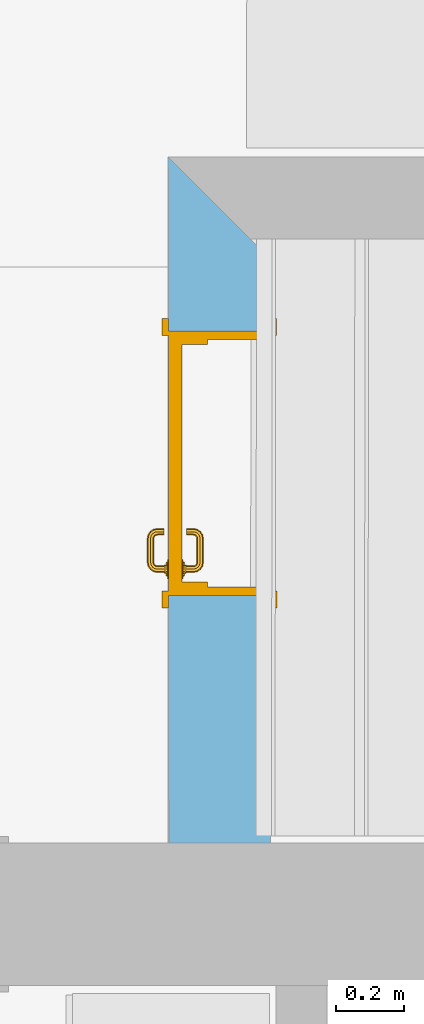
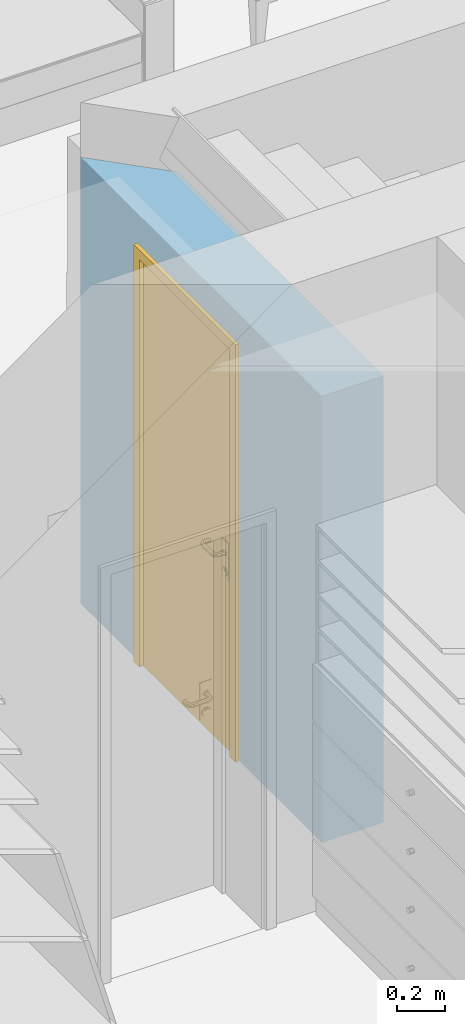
# One storey, part 65 of 194: 1 door, 1 opening, plus 1 element that does not belong to this part.
"""IFC2X3 building model written with IfcOpenShell, lengths in millimetres."""

from ifc_helpers import new_model, entity, si_unit, converted_unit, derived_unit, money_unit, direction, frame, origin_with_axes, origin_2d_with_axis, place, context, subcontext, project, spatial, polyline, rectangle, outline, extrude, open_shell, faceted_brep, surface_model, material, layer, layer_set, layer_usage, type_object, element, fill, save


model = new_model("IFC2X3")

# Units and contexts
model_context = context("Model", 3, precision=1e-05, world=origin_with_axes(), true_north=direction((0.0, 1.0)))
body_context = subcontext(model_context, "Body", "Model", "MODEL_VIEW")
ifc_project = project(units=[si_unit("LENGTHUNIT", "METRE", prefix="MILLI"), si_unit("AREAUNIT", "SQUARE_METRE"), si_unit("VOLUMEUNIT", "CUBIC_METRE"), converted_unit("PLANEANGLEUNIT", "DEGREE", entity("IfcPlaneAngleMeasure", 0.0174532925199), si_unit("PLANEANGLEUNIT", "RADIAN"), dimensions=[0, 0, 0, 0, 0, 0, 0]), si_unit("SOLIDANGLEUNIT", "STERADIAN"), money_unit("EUR"), converted_unit("TIMEUNIT", "Year", entity("IfcTimeMeasure", 31556926.0), si_unit("TIMEUNIT", "SECOND"), dimensions=[0, 0, 1, 0, 0, 0, 0]), si_unit("MASSUNIT", "GRAM", prefix="KILO"), si_unit("THERMODYNAMICTEMPERATUREUNIT", "DEGREE_CELSIUS"), si_unit("LUMINOUSINTENSITYUNIT", "LUMEN"), si_unit("ENERGYUNIT", "JOULE", prefix="MEGA"), derived_unit("THERMALCONDUCTANCEUNIT", [(si_unit("POWERUNIT", "WATT"), 1), (si_unit("LENGTHUNIT", "METRE"), -1), (si_unit("THERMODYNAMICTEMPERATUREUNIT", "KELVIN"), -1)]), derived_unit("SPECIFICHEATCAPACITYUNIT", [(si_unit("ENERGYUNIT", "JOULE"), 1), (si_unit("MASSUNIT", "GRAM", prefix="KILO"), -1), (si_unit("THERMODYNAMICTEMPERATUREUNIT", "KELVIN"), -1)]), derived_unit("MASSDENSITYUNIT", [(si_unit("MASSUNIT", "GRAM", prefix="KILO"), 1), (si_unit("VOLUMEUNIT", "CUBIC_METRE"), -1)])], contexts=[model_context])

# Site, building, storey
site_placement = place(None, origin_with_axes())
site = spatial("IfcSite", under=ifc_project, at=site_placement, Name="Site", CompositionType="ELEMENT")
building_placement = place(site_placement, origin_with_axes())
building = spatial("IfcBuilding", under=site, at=building_placement, Name="Building", CompositionType="ELEMENT")
storey_placement = place(building_placement, frame((0.0, 0.0, 3000.0), z_axis=(0.0, 0.0, 1.0), x_axis=(1.0, 0.0, 0.0)))
storey = spatial("IfcBuildingStorey", under=building, at=storey_placement, Name="2 KORRUS", CompositionType="ELEMENT", Elevation=3000.0)

# Wall, opening, door
ifc_material = material(Name="Kivi -Ol.Olev Konstruktsioon")
ifc_layer = layer(ifc_material, 300.0, ventilated="UNKNOWN")
ifc_layer_set = layer_set([ifc_layer], Name="ol.olev ss 300")
ifc_layer_usage = layer_usage(ifc_layer_set, "AXIS2", "POSITIVE", 0.0)
wall_type = type_object("IfcWallType", Name="SW - 022", PredefinedType="NOTDEFINED")
wall_placement = place(storey_placement, frame((81689.8313676, 43024.0850644, 0.0), z_axis=(0.0, 0.0, 1.0), x_axis=(0.000789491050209, -0.999999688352, 0.0)))
wall = element("IfcWallStandardCase", 1, at=wall_placement, inside=storey, type_object=wall_type, material=ifc_layer_usage, Name="ol.olev ss 300", context=body_context, shape_type="SweptSolid", body=[
    extrude(outline(polyline([(0.0, 0.0), (2021.02076615, 0.0), (2021.25761354, 300.0), (300.236940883, 300.0), (0.0, 0.0)])), origin_with_axes(), (0.0, 0.0, 1.0), 2287.45029227),
])
opening_placement = place(wall_placement, frame((902.224238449, 0.0, 0.0), z_axis=(0.0, 0.0, 1.0), x_axis=(1.0, 0.0, 0.0)))
opening = element("IfcOpeningElement", 2, at=opening_placement, cuts=wall, Name="Siseuks * Door 22", context=body_context, shape_type="SweptSolid", body=[
    extrude(rectangle(XDim=780.000000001, YDim=2100.0, at=origin_2d_with_axis()), frame((9.09494701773e-10, 300.0, 1050.0), z_axis=(0.0, -1.0, 0.0), x_axis=(-1.0, 0.0, 0.0)), (0.0, 0.0, 1.0), 900.0),
    extrude(rectangle(XDim=853.999999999, YDim=2137.0, at=origin_2d_with_axis()), frame((0.0, 300.0, 1068.5), z_axis=(0.0, -1.0, 0.0), x_axis=(-1.0, 0.0, 0.0)), (0.0, 0.0, -1.0), 300.0),
    extrude(rectangle(XDim=854.0, YDim=2137.0, at=origin_2d_with_axis()), frame((0.0, 0.0, 1068.5), z_axis=(0.0, 1.0, 0.0), x_axis=(-1.0, 0.0, 0.0)), (0.0, 0.0, -1.0), 300.0),
])
door_style = type_object("IfcDoorStyle", Name="SU-B238   780×2\xa0100", ConstructionType="NOTDEFINED", OperationType="SINGLE_SWING_RIGHT", ParameterTakesPrecedence=False, Sizeable=False)
door_placement = place(opening_placement, frame((389.999999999, 0.0, 0.0), z_axis=(0.0, 0.0, 1.0), x_axis=(-1.0, 0.0, 0.0)))
door = element("IfcDoor", 3, at=door_placement, inside=storey, type_object=door_style, Name="Siseuks * Door 22", OverallHeight=2100.0, OverallWidth=780.0, context=body_context, shape_type="SurfaceModel", body=[
    faceted_brep([(0.0, -115.0, 0.0), (24.9999999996, -115.0, 0.0), (24.9999999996, -300.0, 0.0), (0.0, -300.0, 0.0), (0.0, -115.0, 2100.0), (24.9999999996, -115.0, 2075.0), (24.9999999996, -300.0, 2075.0), (0.0, -300.0, 2100.0)], [[[0, 1, 2, 3]], [[0, 4, 5, 1]], [[1, 5, 6, 2]], [[3, 2, 6, 7]], [[4, 0, 3, 7]], [[5, 4, 7, 6]]]),
    faceted_brep([(780.0, -115.0, 2100.0), (755.0, -115.0, 2075.0), (754.999999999, -300.0, 2075.0), (779.999999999, -300.0, 2100.0), (780.0, -115.0, 0.0), (755.0, -115.0, 0.0), (754.999999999, -300.0, 0.0), (779.999999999, -300.0, 0.0)], [[[0, 1, 2, 3]], [[0, 4, 5, 1]], [[1, 5, 6, 2]], [[3, 2, 6, 7]], [[4, 0, 3, 7]], [[5, 4, 7, 6]]]),
    faceted_brep([(24.9999999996, -115.0, 2075.0), (755.0, -115.0, 2075.0), (754.999999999, -300.0, 2075.0), (24.9999999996, -300.0, 2075.0), (0.0, -115.0, 2100.0), (780.0, -115.0, 2100.0), (779.999999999, -300.0, 2100.0), (0.0, -300.0, 2100.0)], [[[0, 1, 2, 3]], [[0, 4, 5, 1]], [[1, 5, 6, 2]], [[3, 2, 6, 7]], [[4, 0, 3, 7]], [[5, 4, 7, 6]]]),
    faceted_brep([(-37.0000000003, -319.0, 0.0), (-37.0000000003, -300.0, 0.0), (12.999999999, -300.0, 0.0), (12.9999999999, -319.0, 0.0), (-37.0000000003, -319.0, 2137.0), (-37.0000000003, -300.0, 2137.0), (12.999999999, -300.0, 2087.0), (12.9999999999, -319.0, 2087.0)], [[[0, 1, 2, 3]], [[4, 5, 1, 0]], [[1, 5, 6, 2]], [[3, 2, 6, 7]], [[0, 3, 7, 4]], [[7, 6, 5, 4]]]),
    faceted_brep([(816.999999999, -319.0, 2137.0), (816.999999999, -300.0, 2137.0), (766.999999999, -300.0, 2087.0), (767.0, -319.0, 2087.0), (816.999999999, -319.0, 0.0), (816.999999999, -300.0, 0.0), (766.999999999, -300.0, 0.0), (767.0, -319.0, 0.0)], [[[0, 1, 2, 3]], [[4, 5, 1, 0]], [[1, 5, 6, 2]], [[3, 2, 6, 7]], [[0, 3, 7, 4]], [[7, 6, 5, 4]]]),
    faceted_brep([(-37.0000000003, -319.0, 2137.0), (-37.0000000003, -300.0, 2137.0), (12.999999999, -300.0, 2087.0), (12.9999999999, -319.0, 2087.0), (816.999999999, -319.0, 2137.0), (816.999999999, -300.0, 2137.0), (766.999999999, -300.0, 2087.0), (767.0, -319.0, 2087.0)], [[[0, 1, 2, 3]], [[4, 5, 1, 0]], [[1, 5, 6, 2]], [[3, 2, 6, 7]], [[0, 3, 7, 4]], [[7, 6, 5, 4]]]),
    faceted_brep([(-37.0000000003, 19.0, 0.0), (12.999999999, 19.0, 0.0), (12.9999999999, 0.0, 0.0), (-37.0000000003, 0.0, 0.0), (-37.0000000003, 19.0, 2137.0), (12.999999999, 19.0, 2087.0), (12.9999999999, 0.0, 2087.0), (-37.0000000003, 0.0, 2137.0)], [[[0, 1, 2, 3]], [[0, 4, 5, 1]], [[1, 5, 6, 2]], [[3, 2, 6, 7]], [[4, 0, 3, 7]], [[5, 4, 7, 6]]]),
    faceted_brep([(816.999999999, 19.0, 2137.0), (766.999999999, 19.0, 2087.0), (766.999999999, 1.13686837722e-10, 2087.0), (816.999999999, 1.13686837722e-10, 2137.0), (816.999999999, 19.0, 0.0), (766.999999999, 19.0, 0.0), (766.999999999, 1.13686837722e-10, 0.0), (816.999999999, 1.13686837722e-10, 0.0)], [[[0, 1, 2, 3]], [[0, 4, 5, 1]], [[1, 5, 6, 2]], [[3, 2, 6, 7]], [[4, 0, 3, 7]], [[5, 4, 7, 6]]]),
    faceted_brep([(-37.0000000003, 19.0, 2137.0), (12.999999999, 19.0, 2087.0), (12.9999999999, 0.0, 2087.0), (-37.0000000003, 0.0, 2137.0), (816.999999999, 19.0, 2137.0), (766.999999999, 19.0, 2087.0), (766.999999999, 1.13686837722e-10, 2087.0), (816.999999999, 1.13686837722e-10, 2137.0)], [[[0, 1, 2, 3]], [[0, 4, 5, 1]], [[1, 5, 6, 2]], [[3, 2, 6, 7]], [[4, 0, 3, 7]], [[5, 4, 7, 6]]]),
    faceted_brep([(40.0, -40.0, 0.0), (40.0, -40.0, 2060.0), (39.9999999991, -115.0, 2060.0), (39.9999999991, -115.0, 0.0), (28.0000000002, -40.0, 2060.0), (28.0000000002, -40.0, 0.0), (27.9999999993, 0.0, 2060.0), (0.0, 0.0, 2060.0), (0.0, -115.0, 2060.0), (0.0, -115.0, 0.0), (0.0, 0.0, 0.0), (27.9999999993, 0.0, 0.0)], [[[0, 1, 2, 3]], [[4, 1, 0, 5]], [[4, 6, 7, 8, 2, 1]], [[3, 2, 8, 9]], [[5, 0, 3, 9, 10, 11]], [[6, 4, 5, 11]], [[6, 11, 10, 7]], [[10, 9, 8, 7]]]),
    faceted_brep([(751.999999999, -40.0, 2060.0), (740.0, -40.0, 2060.0), (740.0, -115.0, 2060.0), (780.0, -115.0, 2060.0), (780.0, 1.13686837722e-10, 2060.0), (751.999999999, 0.0, 2060.0), (751.999999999, -40.0, 0.0), (740.0, -40.0, 0.0), (740.0, -115.0, 0.0), (780.0, -115.0, 0.0), (780.0, 1.13686837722e-10, 0.0), (751.999999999, 0.0, 0.0)], [[[0, 1, 2, 3, 4, 5]], [[1, 0, 6, 7]], [[1, 7, 8, 2]], [[3, 2, 8, 9]], [[4, 3, 9, 10]], [[11, 5, 4, 10]], [[0, 5, 11, 6]], [[6, 11, 10, 9, 8, 7]]]),
    faceted_brep([(27.9999999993, 0.0, 2072.0), (27.9999999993, 0.0, 2060.0), (0.0, 0.0, 2060.0), (0.0, 0.0, 2100.0), (780.0, 1.13686837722e-10, 2100.0), (780.0, 1.13686837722e-10, 2060.0), (751.999999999, 0.0, 2060.0), (751.999999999, 0.0, 2072.0), (28.0000000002, -40.0, 2072.0), (28.0000000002, -40.0, 2060.0), (40.0, -40.0, 2060.0), (39.9999999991, -115.0, 2060.0), (0.0, -115.0, 2060.0), (0.0, -115.0, 2100.0), (780.0, -115.0, 2100.0), (780.0, -115.0, 2060.0), (751.999999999, -40.0, 2060.0), (740.0, -115.0, 2060.0), (740.0, -40.0, 2060.0), (751.999999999, -40.0, 2072.0)], [[[0, 1, 2, 3, 4, 5, 6, 7]], [[1, 0, 8, 9]], [[9, 10, 11, 12, 2, 1]], [[2, 12, 13, 3]], [[3, 13, 14, 4]], [[4, 14, 15, 5]], [[16, 6, 5, 15, 17, 18]], [[7, 6, 16, 19]], [[0, 7, 19, 8]], [[16, 18, 10, 9, 8, 19]], [[10, 18, 17, 11]], [[17, 15, 14, 13, 12, 11]]]),
    faceted_brep([(49.4999999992, -40.0, 1060.0), (49.5000000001, -43.0, 1060.0), (106.5, -42.9999999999, 1060.0), (106.5, -39.9999999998, 1060.0), (49.4999999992, -40.0, 870.0), (49.5000000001, -43.0, 870.0), (106.5, -42.9999999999, 870.0), (106.5, -39.9999999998, 870.0)], [[[0, 1, 2, 3]], [[4, 5, 1, 0]], [[1, 5, 6, 2]], [[3, 2, 6, 7]], [[0, 3, 7, 4]], [[7, 6, 5, 4]]]),
    surface_model("IfcShellBasedSurfaceModel", [(87.9999999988, -53.0000000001, 1000.0), (87.9999999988, -72.0150859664, 1000.0), (85.0710678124, -72.303560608, 992.928932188), (85.0710678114, -53.0, 992.928932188), (85.0710678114, -53.0, 1007.07106781), (85.0710678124, -72.303560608, 1007.07106781), (88.9422033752, -76.7518622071, 1000.0), (86.1832095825, -77.8946748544, 992.928932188), (77.9999999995, -72.9999999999, 990.0), (77.9999999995, -53.0, 990.0), (77.9999999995, -53.0, 1010.0), (77.9999999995, -72.9999999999, 1010.0), (86.1832095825, -77.8946748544, 1007.07106781), (91.0674625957, -79.9325374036, 1000.0), (88.955820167, -82.0441798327, 992.928932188), (79.5224093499, -80.6536686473, 990.0), (70.9289321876, -73.6964393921, 992.928932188), (70.9289321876, -53.0, 992.928932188), (70.9289321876, -53.0, 1007.07106781), (70.9289321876, -73.6964393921, 1007.07106781), (79.5224093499, -80.6536686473, 1010.0), (88.955820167, -82.0441798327, 1007.07106781), (94.2481377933, -82.0577966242, 1000.0), (93.1053251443, -84.8167904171, 992.928932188), (83.8578643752, -87.1421356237, 990.0), (72.8616091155, -83.4126624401, 992.928932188), (67.9999999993, -73.9849140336, 1000.0), (68.0000000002, -53.0, 1000.0), (72.8616091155, -83.4126624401, 1007.07106781), (83.8578643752, -87.1421356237, 1010.0), (93.1053251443, -84.8167904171, 1007.07106781), (98.9849140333, -83.0, 1000.0), (98.6964393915, -85.928932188, 992.928932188), (90.3463313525, -91.4775906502, 990.0), (78.7599085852, -92.2400914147, 992.928932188), (70.1026153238, -84.5554750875, 1000.0), (78.7599085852, -92.2400914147, 1007.07106781), (90.3463313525, -91.4775906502, 1010.0), (98.6964393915, -85.928932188, 1007.07106781), (167.015085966, -83.0, 1000.0), (167.303560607, -85.9289321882, 992.928932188), (97.999999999, -93.0, 990.0), (87.5873375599, -98.1383908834, 992.928932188), (76.6482661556, -94.3517338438, 1000.0), (87.5873375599, -98.1383908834, 1007.07106781), (97.999999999, -93.0, 1010.0), (167.303560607, -85.9289321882, 1007.07106781), (171.751862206, -82.0577966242, 1000.0), (172.894674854, -84.816790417, 992.928932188), (168.0, -93.0, 990.0), (97.3035606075, -100.071067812, 992.928932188), (86.4445249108, -100.897384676, 1000.0), (97.3035606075, -100.071067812, 1007.07106781), (168.0, -93.0, 1010.0), (172.894674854, -84.816790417, 1007.07106781), (174.932537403, -79.9325374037, 1000.0), (177.044179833, -82.0441798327, 992.928932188), (175.653668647, -91.4775906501, 990.0), (168.696439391, -100.071067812, 992.928932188), (97.0150859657, -103.0, 1000.0), (168.696439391, -100.071067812, 1007.07106781), (175.653668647, -91.4775906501, 1010.0), (177.044179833, -82.0441798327, 1007.07106781), (177.057796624, -76.7518622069, 1000.0), (179.816790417, -77.8946748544, 992.928932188), (182.142135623, -87.1421356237, 990.0), (178.41266244, -98.1383908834, 992.928932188), (168.984914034, -103.0, 1000.0), (178.41266244, -98.1383908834, 1007.07106781), (182.142135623, -87.1421356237, 1010.0), (179.816790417, -77.8946748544, 1007.07106781), (177.999999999, -72.0150859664, 1000.0), (180.928932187, -72.3035606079, 992.928932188), (186.47759065, -80.6536686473, 990.0), (187.240091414, -92.2400914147, 992.928932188), (179.555475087, -100.897384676, 1000.0), (187.240091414, -92.2400914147, 1007.07106781), (186.47759065, -80.6536686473, 1010.0), (180.928932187, -72.3035606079, 1007.07106781), (178.0, -52.9999999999, 1000.0), (180.928932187, -53.0, 992.928932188), (188.0, -72.9999999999, 990.0), (193.138390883, -83.4126624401, 992.928932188), (189.351733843, -94.3517338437, 1000.0), (193.138390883, -83.4126624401, 1007.07106781), (188.0, -72.9999999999, 1010.0), (180.928932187, -53.0, 1007.07106781), (187.999999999, -53.0, 1010.0), (195.071067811, -53.0, 1007.07106781), (197.999999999, -53.0000000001, 1000.0), (195.071067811, -53.0, 992.928932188), (187.999999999, -53.0, 990.0), (195.071067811, -73.6964393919, 992.928932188), (195.897384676, -84.5554750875, 1000.0), (195.071067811, -73.6964393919, 1007.07106781), (197.999999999, -73.9849140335, 1000.0)], [open_shell([[[0, 1, 2, 3]], [[4, 5, 1, 0]], [[1, 6, 7, 2]], [[3, 2, 8, 9]], [[10, 11, 5, 4]], [[5, 12, 6, 1]], [[6, 13, 14, 7]], [[2, 7, 15, 8]], [[9, 8, 16, 17]], [[18, 19, 11, 10]], [[11, 20, 12, 5]], [[12, 21, 13, 6]], [[13, 22, 23, 14]], [[7, 14, 24, 15]], [[8, 15, 25, 16]], [[17, 16, 26, 27]], [[27, 26, 19, 18]], [[19, 28, 20, 11]], [[20, 29, 21, 12]], [[21, 30, 22, 13]], [[22, 31, 32, 23]], [[14, 23, 33, 24]], [[15, 24, 34, 25]], [[16, 25, 35, 26]], [[26, 35, 28, 19]], [[28, 36, 29, 20]], [[29, 37, 30, 21]], [[30, 38, 31, 22]], [[31, 39, 40, 32]], [[23, 32, 41, 33]], [[24, 33, 42, 34]], [[25, 34, 43, 35]], [[35, 43, 36, 28]], [[36, 44, 37, 29]], [[37, 45, 38, 30]], [[38, 46, 39, 31]], [[39, 47, 48, 40]], [[32, 40, 49, 41]], [[33, 41, 50, 42]], [[34, 42, 51, 43]], [[43, 51, 44, 36]], [[44, 52, 45, 37]], [[45, 53, 46, 38]], [[46, 54, 47, 39]], [[47, 55, 56, 48]], [[40, 48, 57, 49]], [[41, 49, 58, 50]], [[42, 50, 59, 51]], [[51, 59, 52, 44]], [[52, 60, 53, 45]], [[53, 61, 54, 46]], [[54, 62, 55, 47]], [[55, 63, 64, 56]], [[48, 56, 65, 57]], [[49, 57, 66, 58]], [[50, 58, 67, 59]], [[59, 67, 60, 52]], [[60, 68, 61, 53]], [[61, 69, 62, 54]], [[62, 70, 63, 55]], [[63, 71, 72, 64]], [[56, 64, 73, 65]], [[57, 65, 74, 66]], [[58, 66, 75, 67]], [[67, 75, 68, 60]], [[68, 76, 69, 61]], [[69, 77, 70, 62]], [[70, 78, 71, 63]], [[71, 79, 80, 72]], [[64, 72, 81, 73]], [[65, 73, 82, 74]], [[66, 74, 83, 75]], [[75, 83, 76, 68]], [[76, 84, 77, 69]], [[77, 85, 78, 70]], [[78, 86, 79, 71]], [[79, 86, 87, 88, 89, 90, 91, 80]], [[72, 80, 91, 81]], [[73, 81, 92, 82]], [[74, 82, 93, 83]], [[83, 93, 84, 76]], [[84, 94, 85, 77]], [[85, 87, 86, 78]], [[94, 88, 87, 85]], [[95, 89, 88, 94]], [[92, 90, 89, 95]], [[81, 91, 90, 92]], [[82, 92, 95, 93]], [[93, 95, 94, 84]]])]),
    faceted_brep([(88.392304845, -52.9999999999, 994.0), (89.2583302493, -43.0, 993.5), (90.9999999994, -43.0, 1000.0), (90.0000000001, -53.0, 1000.0), (83.9999999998, -53.0, 989.607695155), (84.4999999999, -43.0, 988.741669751), (77.9999999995, -43.0, 987.0), (71.4999999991, -43.0, 988.741669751), (66.7416697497, -43.0, 993.5), (64.9999999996, -43.0, 1000.0), (66.7416697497, -43.0, 1006.5), (71.4999999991, -43.0, 1011.25833025), (77.9999999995, -43.0, 1013.0), (84.4999999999, -43.0, 1011.25833025), (89.2583302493, -43.0, 1006.5), (88.392304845, -52.9999999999, 1006.0), (83.9999999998, -53.0, 1010.39230485), (77.9999999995, -53.0, 1012.0), (72.0000000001, -53.0, 1010.39230485), (67.607695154, -52.9999999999, 1006.0), (65.9999999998, -52.9999999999, 1000.0), (67.607695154, -52.9999999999, 994.0), (72.0000000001, -53.0, 989.607695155), (77.9999999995, -53.0, 988.0)], [[[0, 1, 2, 3]], [[4, 5, 1, 0]], [[2, 1, 5, 6, 7, 8, 9, 10, 11, 12, 13, 14]], [[3, 2, 14, 15]], [[3, 15, 16, 17, 18, 19, 20, 21, 22, 23, 4, 0]], [[23, 6, 5, 4]], [[22, 7, 6, 23]], [[21, 8, 7, 22]], [[20, 9, 8, 21]], [[19, 10, 9, 20]], [[18, 11, 10, 19]], [[17, 12, 11, 18]], [[16, 13, 12, 17]], [[15, 14, 13, 16]]]),
    faceted_brep([(95.3205080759, -46.9999999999, 895.0), (97.0525588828, -43.0, 894.0), (99.9999999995, -43.0, 905.0), (97.999999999, -47.0, 905.0), (87.9999999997, -46.9999999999, 887.679491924), (88.999999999, -43.0, 885.947441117), (77.9999999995, -43.0, 883.0), (66.9999999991, -43.0, 885.947441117), (58.9474411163, -42.9999999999, 894.0), (55.9999999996, -42.9999999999, 905.0), (58.9474411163, -42.9999999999, 916.0), (66.9999999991, -43.0, 924.052558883), (77.9999999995, -43.0, 927.0), (88.999999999, -43.0, 924.052558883), (97.0525588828, -43.0, 916.0), (95.3205080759, -46.9999999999, 915.0), (87.9999999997, -46.9999999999, 922.320508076), (78.0000000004, -47.0, 925.0), (67.9999999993, -46.9999999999, 922.320508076), (60.6794919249, -47.0, 915.0), (57.9999999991, -47.0, 905.0), (60.6794919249, -47.0, 895.0), (67.9999999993, -46.9999999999, 887.679491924), (78.0000000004, -47.0, 885.0)], [[[0, 1, 2, 3]], [[4, 5, 1, 0]], [[2, 1, 5, 6, 7, 8, 9, 10, 11, 12, 13, 14]], [[3, 2, 14, 15]], [[3, 15, 16, 17, 18, 19, 20, 21, 22, 23, 4, 0]], [[23, 6, 5, 4]], [[22, 7, 6, 23]], [[21, 8, 7, 22]], [[20, 9, 8, 21]], [[19, 10, 9, 20]], [[18, 11, 10, 19]], [[17, 12, 11, 18]], [[16, 13, 12, 17]], [[15, 14, 13, 16]]]),
    faceted_brep([(82.9497474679, -49.0, 909.050252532), (83.6568542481, -47.0, 908.343145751), (85.9999999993, -47.0, 914.0), (84.9999999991, -49.0, 914.0), (77.9999999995, -49.0, 907.0), (78.0000000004, -47.0, 906.0), (72.34314575, -47.0, 908.343145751), (69.9999999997, -46.9999999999, 914.0), (72.34314575, -47.0, 919.656854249), (78.0000000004, -47.0, 922.0), (83.6568542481, -47.0, 919.656854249), (82.9497474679, -49.0, 918.949747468), (77.9999999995, -49.0, 921.0), (73.0502525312, -48.9999999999, 918.949747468), (70.9999999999, -49.0, 914.0), (73.0502525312, -48.9999999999, 909.050252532)], [[[0, 1, 2, 3]], [[4, 5, 1, 0]], [[2, 1, 5, 6, 7, 8, 9, 10]], [[3, 2, 10, 11]], [[3, 11, 12, 13, 14, 15, 4, 0]], [[15, 6, 5, 4]], [[14, 7, 6, 15]], [[13, 8, 7, 14]], [[12, 9, 8, 13]], [[11, 10, 9, 12]]]),
    faceted_brep([(49.4999999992, 1.13686837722e-10, 1060.0), (106.499999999, -1.13686837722e-10, 1060.0), (106.499999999, 2.99999999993, 1060.0), (49.4999999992, 3.00000000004, 1060.0), (49.4999999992, 1.13686837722e-10, 870.0), (106.499999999, -1.13686837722e-10, 870.0), (106.499999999, 2.99999999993, 870.0), (49.4999999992, 3.00000000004, 870.0)], [[[0, 1, 2, 3]], [[0, 4, 5, 1]], [[1, 5, 6, 2]], [[3, 2, 6, 7]], [[4, 0, 3, 7]], [[5, 4, 7, 6]]]),
    surface_model("IfcShellBasedSurfaceModel", [(87.9999999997, 13.0, 1000.0), (85.0710678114, 13.0, 992.928932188), (85.0710678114, 32.3035606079, 992.928932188), (87.9999999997, 32.0150859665, 1000.0), (77.9999999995, 13.0, 990.0), (77.9999999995, 33.0, 990.0), (86.1832095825, 37.8946748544, 992.928932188), (88.9422033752, 36.7518622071, 1000.0), (85.0710678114, 13.0, 1007.07106781), (85.0710678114, 32.3035606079, 1007.07106781), (70.9289321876, 13.0, 992.928932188), (70.9289321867, 33.6964393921, 992.928932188), (79.5224093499, 40.6536686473, 990.0), (88.955820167, 42.0441798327, 992.928932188), (91.0674625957, 39.9325374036, 1000.0), (86.1832095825, 37.8946748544, 1007.07106781), (77.9999999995, 13.0, 1010.0), (77.9999999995, 33.0, 1010.0), (67.9999999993, 13.0, 1000.0), (67.9999999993, 33.9849140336, 1000.0), (72.8616091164, 43.4126624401, 992.928932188), (83.8578643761, 47.1421356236, 990.0), (93.1053251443, 44.816790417, 992.928932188), (94.2481377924, 42.0577966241, 1000.0), (88.955820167, 42.0441798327, 1007.07106781), (79.5224093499, 40.6536686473, 1010.0), (70.9289321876, 13.0, 1007.07106781), (70.9289321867, 33.6964393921, 1007.07106781), (70.1026153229, 44.5554750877, 1000.0), (78.7599085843, 52.2400914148, 992.928932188), (90.3463313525, 51.4775906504, 990.0), (98.6964393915, 45.9289321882, 992.928932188), (98.9849140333, 43.0, 1000.0), (93.1053251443, 44.816790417, 1007.07106781), (83.8578643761, 47.1421356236, 1010.0), (72.8616091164, 43.4126624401, 1007.07106781), (76.6482661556, 54.3517338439, 1000.0), (87.5873375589, 58.1383908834, 992.928932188), (97.999999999, 53.0, 990.0), (167.303560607, 45.9289321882, 992.928932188), (167.015085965, 43.0, 1000.0), (98.6964393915, 45.9289321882, 1007.07106781), (90.3463313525, 51.4775906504, 1010.0), (78.7599085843, 52.2400914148, 1007.07106781), (86.4445249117, 60.8973846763, 1000.0), (97.3035606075, 60.0710678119, 992.928932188), (168.0, 53.0000000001, 990.0), (172.894674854, 44.816790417, 992.928932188), (171.751862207, 42.0577966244, 1000.0), (167.303560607, 45.9289321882, 1007.07106781), (97.999999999, 53.0, 1010.0), (87.5873375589, 58.1383908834, 1007.07106781), (97.0150859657, 63.0, 1000.0), (168.696439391, 60.0710678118, 992.928932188), (175.653668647, 51.4775906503, 990.0), (177.044179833, 42.0441798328, 992.928932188), (174.932537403, 39.9325374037, 1000.0), (172.894674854, 44.816790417, 1007.07106781), (168.0, 53.0000000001, 1010.0), (97.3035606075, 60.0710678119, 1007.07106781), (168.984914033, 63.0, 1000.0), (178.41266244, 58.1383908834, 992.928932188), (182.142135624, 47.1421356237, 990.0), (179.816790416, 37.8946748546, 992.928932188), (177.057796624, 36.751862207, 1000.0), (177.044179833, 42.0441798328, 1007.07106781), (175.653668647, 51.4775906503, 1010.0), (168.696439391, 60.0710678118, 1007.07106781), (179.555475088, 60.8973846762, 1000.0), (187.240091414, 52.2400914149, 992.928932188), (186.477590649, 40.6536686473, 990.0), (180.928932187, 32.3035606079, 992.928932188), (177.999999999, 32.0150859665, 1000.0), (179.816790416, 37.8946748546, 1007.07106781), (182.142135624, 47.1421356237, 1010.0), (178.41266244, 58.1383908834, 1007.07106781), (189.351733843, 54.3517338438, 1000.0), (193.138390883, 43.4126624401, 992.928932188), (188.0, 33.0, 990.0), (180.928932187, 13.0, 992.928932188), (178.0, 13.0, 1000.0), (180.928932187, 32.3035606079, 1007.07106781), (186.477590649, 40.6536686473, 1010.0), (187.240091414, 52.2400914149, 1007.07106781), (195.897384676, 44.5554750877, 1000.0), (195.071067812, 33.6964393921, 992.928932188), (187.999999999, 13.0, 990.0), (195.071067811, 13.0, 992.928932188), (197.999999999, 13.0, 1000.0), (195.071067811, 13.0, 1007.07106781), (187.999999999, 13.0, 1010.0), (180.928932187, 13.0, 1007.07106781), (188.0, 33.0, 1010.0), (193.138390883, 43.4126624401, 1007.07106781), (197.999999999, 33.9849140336, 1000.0), (195.071067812, 33.6964393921, 1007.07106781)], [open_shell([[[0, 1, 2, 3]], [[1, 4, 5, 2]], [[3, 2, 6, 7]], [[8, 0, 3, 9]], [[4, 10, 11, 5]], [[2, 5, 12, 6]], [[7, 6, 13, 14]], [[9, 3, 7, 15]], [[16, 8, 9, 17]], [[10, 18, 19, 11]], [[5, 11, 20, 12]], [[6, 12, 21, 13]], [[14, 13, 22, 23]], [[15, 7, 14, 24]], [[17, 9, 15, 25]], [[26, 16, 17, 27]], [[18, 26, 27, 19]], [[11, 19, 28, 20]], [[12, 20, 29, 21]], [[13, 21, 30, 22]], [[23, 22, 31, 32]], [[24, 14, 23, 33]], [[25, 15, 24, 34]], [[27, 17, 25, 35]], [[19, 27, 35, 28]], [[20, 28, 36, 29]], [[21, 29, 37, 30]], [[22, 30, 38, 31]], [[32, 31, 39, 40]], [[33, 23, 32, 41]], [[34, 24, 33, 42]], [[35, 25, 34, 43]], [[28, 35, 43, 36]], [[29, 36, 44, 37]], [[30, 37, 45, 38]], [[31, 38, 46, 39]], [[40, 39, 47, 48]], [[41, 32, 40, 49]], [[42, 33, 41, 50]], [[43, 34, 42, 51]], [[36, 43, 51, 44]], [[37, 44, 52, 45]], [[38, 45, 53, 46]], [[39, 46, 54, 47]], [[48, 47, 55, 56]], [[49, 40, 48, 57]], [[50, 41, 49, 58]], [[51, 42, 50, 59]], [[44, 51, 59, 52]], [[45, 52, 60, 53]], [[46, 53, 61, 54]], [[47, 54, 62, 55]], [[56, 55, 63, 64]], [[57, 48, 56, 65]], [[58, 49, 57, 66]], [[59, 50, 58, 67]], [[52, 59, 67, 60]], [[53, 60, 68, 61]], [[54, 61, 69, 62]], [[55, 62, 70, 63]], [[64, 63, 71, 72]], [[65, 56, 64, 73]], [[66, 57, 65, 74]], [[67, 58, 66, 75]], [[60, 67, 75, 68]], [[61, 68, 76, 69]], [[62, 69, 77, 70]], [[63, 70, 78, 71]], [[72, 71, 79, 80]], [[73, 64, 72, 81]], [[74, 65, 73, 82]], [[75, 66, 74, 83]], [[68, 75, 83, 76]], [[69, 76, 84, 77]], [[70, 77, 85, 78]], [[71, 78, 86, 79]], [[80, 79, 86, 87, 88, 89, 90, 91]], [[81, 72, 80, 91]], [[82, 73, 81, 92]], [[83, 74, 82, 93]], [[76, 83, 93, 84]], [[77, 84, 94, 85]], [[78, 85, 87, 86]], [[85, 94, 88, 87]], [[94, 95, 89, 88]], [[95, 92, 90, 89]], [[92, 81, 91, 90]], [[93, 82, 92, 95]], [[84, 93, 95, 94]]])]),
    faceted_brep([(88.392304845, 13.0, 994.0), (90.0000000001, 13.0, 1000.0), (91.0000000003, 3.00000000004, 1000.0), (89.2583302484, 3.00000000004, 993.5), (83.9999999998, 12.9999999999, 989.607695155), (77.9999999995, 13.0, 988.0), (72.0000000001, 13.0, 989.607695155), (67.607695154, 13.0, 994.0), (65.9999999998, 12.9999999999, 1000.0), (67.607695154, 13.0, 1006.0), (72.0000000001, 13.0, 1010.39230485), (77.9999999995, 13.0, 1012.0), (83.9999999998, 12.9999999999, 1010.39230485), (88.392304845, 13.0, 1006.0), (89.2583302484, 3.00000000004, 1006.5), (84.4999999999, 2.99999999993, 1011.25833025), (77.9999999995, 3.00000000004, 1013.0), (71.4999999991, 2.99999999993, 1011.25833025), (66.7416697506, 3.00000000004, 1006.5), (64.9999999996, 2.99999999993, 1000.0), (66.7416697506, 3.00000000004, 993.5), (71.4999999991, 2.99999999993, 988.741669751), (77.9999999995, 3.00000000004, 987.0), (84.4999999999, 2.99999999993, 988.741669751)], [[[0, 1, 2, 3]], [[1, 0, 4, 5, 6, 7, 8, 9, 10, 11, 12, 13]], [[1, 13, 14, 2]], [[2, 14, 15, 16, 17, 18, 19, 20, 21, 22, 23, 3]], [[4, 0, 3, 23]], [[5, 4, 23, 22]], [[6, 5, 22, 21]], [[7, 6, 21, 20]], [[8, 7, 20, 19]], [[9, 8, 19, 18]], [[10, 9, 18, 17]], [[11, 10, 17, 16]], [[12, 11, 16, 15]], [[13, 12, 15, 14]]]),
    faceted_brep([(95.320508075, 7.00000000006, 895.0), (97.999999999, 7.00000000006, 905.0), (100.0, 3.00000000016, 905.0), (97.0525588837, 3.00000000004, 894.0), (87.9999999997, 7.00000000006, 887.679491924), (77.9999999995, 6.99999999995, 885.0), (68.0000000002, 7.00000000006, 887.679491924), (60.679491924, 7.00000000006, 895.0), (57.9999999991, 6.99999999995, 905.0), (60.679491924, 7.00000000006, 915.0), (68.0000000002, 7.00000000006, 922.320508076), (77.9999999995, 6.99999999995, 925.0), (87.9999999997, 7.00000000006, 922.320508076), (95.320508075, 7.00000000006, 915.0), (97.0525588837, 3.00000000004, 916.0), (88.9999999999, 3.00000000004, 924.052558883), (77.9999999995, 3.00000000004, 927.0), (66.9999999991, 3.00000000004, 924.052558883), (58.9474411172, 2.99999999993, 916.0), (56.0000000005, 3.00000000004, 905.0), (58.9474411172, 2.99999999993, 894.0), (66.9999999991, 3.00000000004, 885.947441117), (77.9999999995, 3.00000000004, 883.0), (88.9999999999, 3.00000000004, 885.947441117)], [[[0, 1, 2, 3]], [[1, 0, 4, 5, 6, 7, 8, 9, 10, 11, 12, 13]], [[1, 13, 14, 2]], [[2, 14, 15, 16, 17, 18, 19, 20, 21, 22, 23, 3]], [[4, 0, 3, 23]], [[5, 4, 23, 22]], [[6, 5, 22, 21]], [[7, 6, 21, 20]], [[8, 7, 20, 19]], [[9, 8, 19, 18]], [[10, 9, 18, 17]], [[11, 10, 17, 16]], [[12, 11, 16, 15]], [[13, 12, 15, 14]]]),
    faceted_brep([(82.9497474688, 9.00000000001, 909.050252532), (85.0, 8.9999999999, 914.0), (85.9999999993, 7.00000000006, 914.0), (83.6568542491, 7.00000000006, 908.343145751), (78.0000000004, 8.9999999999, 907.0), (73.0502525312, 9.00000000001, 909.050252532), (70.999999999, 9.00000000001, 914.0), (73.0502525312, 9.00000000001, 918.949747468), (78.0000000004, 8.9999999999, 921.0), (82.9497474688, 9.00000000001, 918.949747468), (83.6568542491, 7.00000000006, 919.656854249), (77.9999999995, 6.99999999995, 922.0), (72.34314575, 6.99999999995, 919.656854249), (69.9999999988, 7.00000000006, 914.0), (72.34314575, 6.99999999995, 908.343145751), (77.9999999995, 6.99999999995, 906.0)], [[[0, 1, 2, 3]], [[1, 0, 4, 5, 6, 7, 8, 9]], [[1, 9, 10, 2]], [[2, 10, 11, 12, 13, 14, 15, 3]], [[4, 0, 3, 15]], [[5, 4, 15, 14]], [[6, 5, 14, 13]], [[7, 6, 13, 12]], [[8, 7, 12, 11]], [[9, 8, 11, 10]]]),
    faceted_brep([(751.999999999, 0.0, 0.0), (751.999999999, -40.0, 0.0), (28.0000000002, -40.0, 0.0), (27.9999999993, 0.0, 0.0), (751.999999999, 0.0, 2072.0), (751.999999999, -40.0, 2072.0), (28.0000000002, -40.0, 2072.0), (27.9999999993, 0.0, 2072.0)], [[[0, 1, 2, 3]], [[4, 5, 1, 0]], [[1, 5, 6, 2]], [[3, 2, 6, 7]], [[0, 3, 7, 4]], [[7, 6, 5, 4]]]),
])
fill(opening, door)

save(model, "model.ifc")
